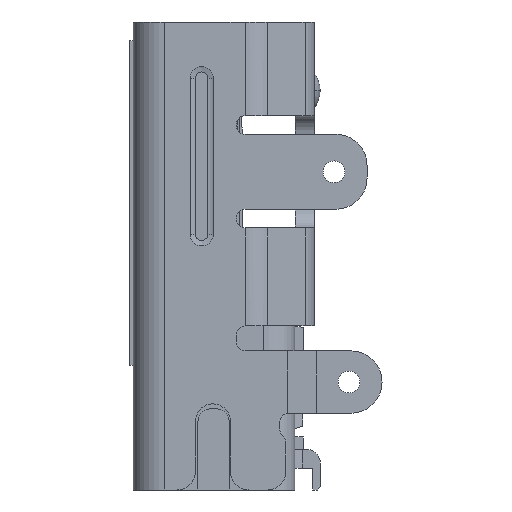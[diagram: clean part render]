
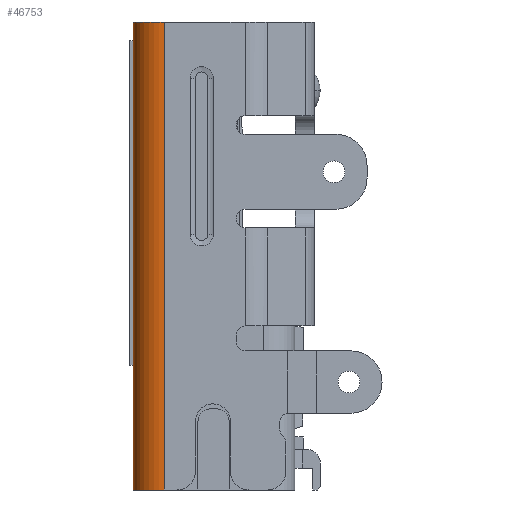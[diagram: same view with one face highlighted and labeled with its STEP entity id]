
A CAD part, left-side view. The second image highlights one B-rep face of the part: STEP entity #46753.
In plain terms, the highlighted cylindrical face has radius 0.5 mm (diameter 1 mm), a partial arc.
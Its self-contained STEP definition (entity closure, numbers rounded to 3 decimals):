
#652 = CARTESIAN_POINT ( 'NONE',  ( -3.25, 0.95, 0. ) ) ;
#1743 = LINE ( 'NONE', #28250, #9098 ) ;
#3338 = CARTESIAN_POINT ( 'NONE',  ( -2.75, 0.95, -7.5 ) ) ;
#5554 = CYLINDRICAL_SURFACE ( 'NONE', #12169, 0.5 ) ;
#9098 = VECTOR ( 'NONE', #47571, 1000. ) ;
#9583 = ORIENTED_EDGE ( 'NONE', *, *, #47582, .T. ) ;
#9762 = VERTEX_POINT ( 'NONE', #15585 ) ;
#11471 = ORIENTED_EDGE ( 'NONE', *, *, #50237, .T. ) ;
#12169 = AXIS2_PLACEMENT_3D ( 'NONE', #58828, #18067, #27871 ) ;
#12581 = DIRECTION ( 'NONE',  ( 0., 0., 1. ) ) ;
#12689 = DIRECTION ( 'NONE',  ( -1., 0., 0. ) ) ;
#13098 = EDGE_CURVE ( 'NONE', #31217, #50377, #34054, .T. ) ;
#14257 = CIRCLE ( 'NONE', #24708, 0.5 ) ;
#14960 = ORIENTED_EDGE ( 'NONE', *, *, #13098, .F. ) ;
#15584 = CARTESIAN_POINT ( 'NONE',  ( -2.75, 1.45, -7.5 ) ) ;
#15585 = CARTESIAN_POINT ( 'NONE',  ( -3.25, 0.95, -7.5 ) ) ;
#18067 = DIRECTION ( 'NONE',  ( 0., 0., 1. ) ) ;
#21133 = EDGE_CURVE ( 'NONE', #47720, #9762, #1743, .T. ) ;
#24708 = AXIS2_PLACEMENT_3D ( 'NONE', #53178, #26082, #12689 ) ;
#26082 = DIRECTION ( 'NONE',  ( 0., 0., -1. ) ) ;
#27871 = DIRECTION ( 'NONE',  ( 1., 0., 0. ) ) ;
#27910 = VECTOR ( 'NONE', #52201, 1000. ) ;
#28250 = CARTESIAN_POINT ( 'NONE',  ( -3.25, 0.95, 0. ) ) ;
#30641 = ORIENTED_EDGE ( 'NONE', *, *, #21133, .F. ) ;
#30873 = FACE_OUTER_BOUND ( 'NONE', #50534, .T. ) ;
#31217 = VERTEX_POINT ( 'NONE', #46825 ) ;
#34054 = LINE ( 'NONE', #15584, #27910 ) ;
#34144 = AXIS2_PLACEMENT_3D ( 'NONE', #3338, #12581, #47997 ) ;
#42737 = CIRCLE ( 'NONE', #34144, 0.5 ) ;
#43282 = CARTESIAN_POINT ( 'NONE',  ( -2.75, 1.45, 0. ) ) ;
#46753 = ADVANCED_FACE ( 'NONE', ( #30873 ), #5554, .T. ) ;
#46825 = CARTESIAN_POINT ( 'NONE',  ( -2.75, 1.45, -7.5 ) ) ;
#47571 = DIRECTION ( 'NONE',  ( 0., 0., -1. ) ) ;
#47582 = EDGE_CURVE ( 'NONE', #31217, #9762, #42737, .T. ) ;
#47720 = VERTEX_POINT ( 'NONE', #652 ) ;
#47997 = DIRECTION ( 'NONE',  ( 0., 1., 0. ) ) ;
#50237 = EDGE_CURVE ( 'NONE', #47720, #50377, #14257, .T. ) ;
#50377 = VERTEX_POINT ( 'NONE', #43282 ) ;
#50534 = EDGE_LOOP ( 'NONE', ( #14960, #9583, #30641, #11471 ) ) ;
#52201 = DIRECTION ( 'NONE',  ( 0., 0., 1. ) ) ;
#53178 = CARTESIAN_POINT ( 'NONE',  ( -2.75, 0.95, 0. ) ) ;
#58828 = CARTESIAN_POINT ( 'NONE',  ( -2.75, 0.95, 0. ) ) ;
